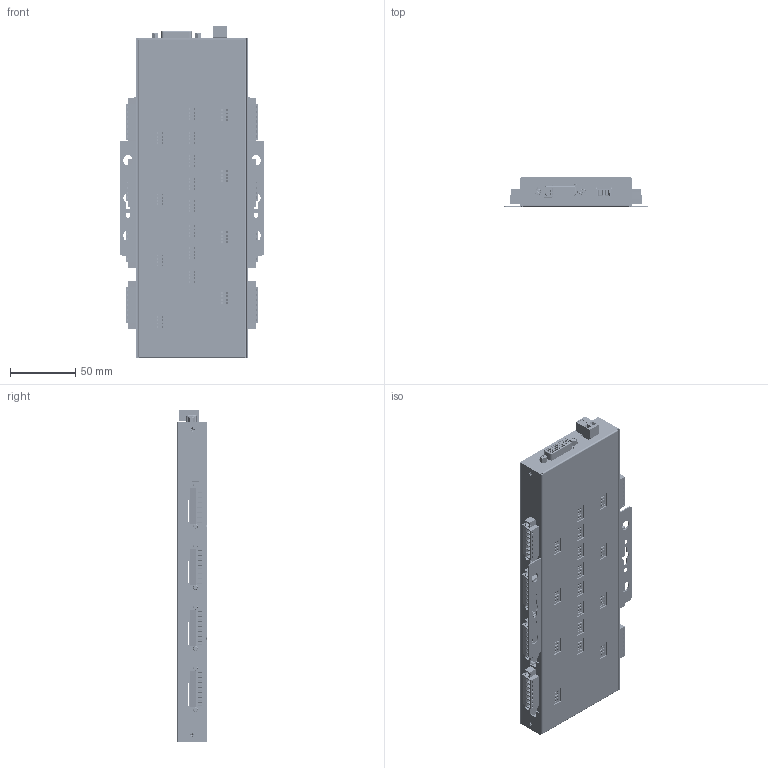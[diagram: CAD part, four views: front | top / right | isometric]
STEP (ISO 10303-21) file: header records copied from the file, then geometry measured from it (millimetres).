
FILE_DESCRIPTION(/* description */ (''),/* implementation_level */ '2;1');
FILE_NAME(/* name */ '/Users/leo/Desktop/Coolgear May/SG-PCIE8SRS422485MOD/SG-PCIE8SRS422485MOD Model3D LPV1.step',/* time_stamp */ '2021-10-21T15:58:23-04:00',/* author */ (''),/* organization */ (''),/* preprocessor_version */ 'ST-DEVELOPER v18.1',/* originating_system */ 'Autodesk Translation Framework v10.10.0.1391',/* authorisation */ '');
FILE_SCHEMA (('AUTOMOTIVE_DESIGN { 1 0 10303 214 3 1 1 }'));
Products named in the file (1): FusionComponent
Bounding box: 111.07 x 23.14 x 254.45 mm (x, y, z)
Volume: 130818.7 mm3; surface area: 210129.3 mm2
Topology: 1 solids, 57 shells, 16355 faces, 44518 edges, 29242 vertices
Faces by surface type: plane 13468, cylinder 2092, torus 332, cone 259, bspline 185, sphere 19
Full cylindrical faces by diameter (mm): 0.8 x32, 1.2 x52, 1.6 x2, 1.9 x72, 2 x128, 2.002 x16, 2.02 x4, 2.323 x12, 2.35 x20, 2.5 x16, 2.6 x16, 2.8 x112, 2.845 x6, 2.998 x17, 3 x59, 3.6 x16, 3.643 x17, 3.85 x16, 3.86 x2, 4.2 x5
Entity records: 545385 total; most frequent: CARTESIAN_POINT 129364, ORIENTED_EDGE 88990, DIRECTION 80698, EDGE_CURVE 44495, LINE 37324, VECTOR 37324, VERTEX_POINT 29242, AXIS2_PLACEMENT_3D 21687
